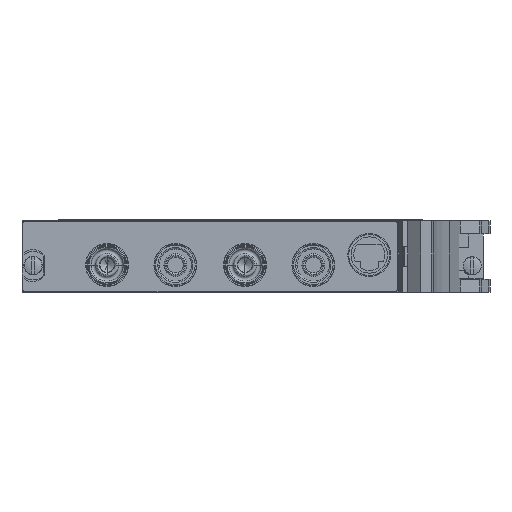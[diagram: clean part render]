
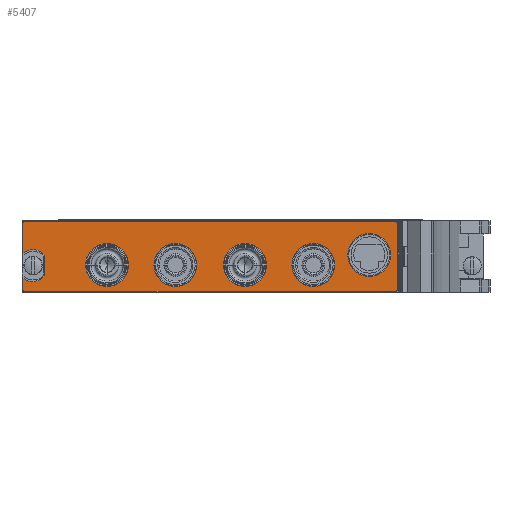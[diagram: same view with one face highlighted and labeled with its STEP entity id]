
A CAD part, left-side view. The second image highlights one B-rep face of the part: STEP entity #5407.
In plain terms, the highlighted planar face has unit normal (-1, 0, 0).
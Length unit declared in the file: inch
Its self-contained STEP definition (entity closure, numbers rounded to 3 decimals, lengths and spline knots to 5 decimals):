
#770=CARTESIAN_POINT('',(-0.215,0.53457,0.6653));
#771=DIRECTION('',(-1.,0.,0.));
#772=DIRECTION('',(0.,0.,1.));
#773=AXIS2_PLACEMENT_3D('',#770,#771,#772);
#775=DIRECTION('',(0.,1.,0.));
#776=VECTOR('',#775,4.07);
#777=CARTESIAN_POINT('',(-0.215,-3.53543,0.6853));
#778=LINE('',#777,#776);
#779=CARTESIAN_POINT('',(-0.215,-3.53543,0.6653));
#780=DIRECTION('',(-1.,0.,0.));
#781=DIRECTION('',(0.,-1.,0.));
#782=AXIS2_PLACEMENT_3D('',#779,#780,#781);
#784=DIRECTION('',(0.,0.,1.));
#785=VECTOR('',#784,0.728);
#786=CARTESIAN_POINT('',(-0.215,-3.55543,-0.0627));
#787=LINE('',#786,#785);
#788=CARTESIAN_POINT('',(-0.215,-3.53543,-0.0627));
#789=DIRECTION('',(-1.,0.,0.));
#790=DIRECTION('',(0.,0.,-1.));
#791=AXIS2_PLACEMENT_3D('',#788,#789,#790);
#793=DIRECTION('',(0.,-1.,0.));
#794=VECTOR('',#793,4.07);
#795=CARTESIAN_POINT('',(-0.215,0.53457,-0.0827));
#796=LINE('',#795,#794);
#797=CARTESIAN_POINT('',(-0.215,0.53457,-0.0627));
#798=DIRECTION('',(-1.,0.,0.));
#799=DIRECTION('',(0.,1.,0.));
#800=AXIS2_PLACEMENT_3D('',#797,#798,#799);
#802=DIRECTION('',(0.,0.,-1.));
#803=VECTOR('',#802,0.1263);
#804=CARTESIAN_POINT('',(-0.215,0.55457,0.0636));
#805=LINE('',#804,#803);
#806=CARTESIAN_POINT('',(-0.215,0.44657,0.2013));
#807=DIRECTION('',(1.,0.,0.));
#808=DIRECTION('',(0.,-0.76,-0.65));
#809=AXIS2_PLACEMENT_3D('',#806,#807,#808);
#811=DIRECTION('',(0.,0.,-1.));
#812=VECTOR('',#811,0.22747);
#813=CARTESIAN_POINT('',(-0.215,0.31357,0.31504));
#814=LINE('',#813,#812);
#815=CARTESIAN_POINT('',(-0.215,0.44657,0.2013));
#816=DIRECTION('',(1.,0.,0.));
#817=DIRECTION('',(0.,0.617,0.787));
#818=AXIS2_PLACEMENT_3D('',#815,#816,#817);
#820=DIRECTION('',(0.,0.,-1.));
#821=VECTOR('',#820,0.3263);
#822=CARTESIAN_POINT('',(-0.215,0.55457,0.6653));
#823=LINE('',#822,#821);
#824=CARTESIAN_POINT('',(-0.215,-3.24759,0.318));
#825=DIRECTION('',(1.,0.,0.));
#826=DIRECTION('',(0.,0.,-1.));
#827=AXIS2_PLACEMENT_3D('',#824,#825,#826);
#829=CARTESIAN_POINT('',(-0.215,-3.24759,0.318));
#830=DIRECTION('',(1.,0.,0.));
#831=DIRECTION('',(0.,0.,1.));
#832=AXIS2_PLACEMENT_3D('',#829,#830,#831);
#834=CARTESIAN_POINT('',(-0.215,-0.3695,0.20767));
#835=DIRECTION('',(1.,0.,0.));
#836=DIRECTION('',(0.,0.,-1.));
#837=AXIS2_PLACEMENT_3D('',#834,#835,#836);
#839=CARTESIAN_POINT('',(-0.215,-0.3695,0.20767));
#840=DIRECTION('',(1.,0.,0.));
#841=DIRECTION('',(0.,0.,1.));
#842=AXIS2_PLACEMENT_3D('',#839,#840,#841);
#844=CARTESIAN_POINT('',(-0.215,-1.1195,0.20767));
#845=DIRECTION('',(1.,0.,0.));
#846=DIRECTION('',(0.,0.,-1.));
#847=AXIS2_PLACEMENT_3D('',#844,#845,#846);
#849=CARTESIAN_POINT('',(-0.215,-1.1195,0.20767));
#850=DIRECTION('',(1.,0.,0.));
#851=DIRECTION('',(0.,0.,1.));
#852=AXIS2_PLACEMENT_3D('',#849,#850,#851);
#854=CARTESIAN_POINT('',(-0.215,-1.8835,0.20767));
#855=DIRECTION('',(1.,0.,0.));
#856=DIRECTION('',(0.,0.,-1.));
#857=AXIS2_PLACEMENT_3D('',#854,#855,#856);
#859=CARTESIAN_POINT('',(-0.215,-1.8835,0.20767));
#860=DIRECTION('',(1.,0.,0.));
#861=DIRECTION('',(0.,0.,1.));
#862=AXIS2_PLACEMENT_3D('',#859,#860,#861);
#864=CARTESIAN_POINT('',(-0.215,-2.6335,0.20767));
#865=DIRECTION('',(1.,0.,0.));
#866=DIRECTION('',(0.,0.,-1.));
#867=AXIS2_PLACEMENT_3D('',#864,#865,#866);
#869=CARTESIAN_POINT('',(-0.215,-2.6335,0.20767));
#870=DIRECTION('',(1.,0.,0.));
#871=DIRECTION('',(0.,0.,1.));
#872=AXIS2_PLACEMENT_3D('',#869,#870,#871);
#4057=CARTESIAN_POINT('',(-0.215,0.53457,0.6853));
#4058=CARTESIAN_POINT('',(-0.215,0.55457,0.6653));
#4059=VERTEX_POINT('',#4057);
#4060=VERTEX_POINT('',#4058);
#4061=CARTESIAN_POINT('',(-0.215,0.55457,0.339));
#4062=VERTEX_POINT('',#4061);
#4063=CARTESIAN_POINT('',(-0.215,0.31357,0.31504));
#4064=VERTEX_POINT('',#4063);
#4065=CARTESIAN_POINT('',(-0.215,0.31357,0.08756));
#4066=VERTEX_POINT('',#4065);
#4067=CARTESIAN_POINT('',(-0.215,0.55457,0.0636));
#4068=VERTEX_POINT('',#4067);
#4069=CARTESIAN_POINT('',(-0.215,0.55457,-0.0627));
#4070=VERTEX_POINT('',#4069);
#4071=CARTESIAN_POINT('',(-0.215,0.53457,-0.0827));
#4072=VERTEX_POINT('',#4071);
#4073=CARTESIAN_POINT('',(-0.215,-3.53543,-0.0827));
#4074=VERTEX_POINT('',#4073);
#4075=CARTESIAN_POINT('',(-0.215,-3.55543,-0.0627));
#4076=VERTEX_POINT('',#4075);
#4077=CARTESIAN_POINT('',(-0.215,-3.55543,0.6653));
#4078=VERTEX_POINT('',#4077);
#4079=CARTESIAN_POINT('',(-0.215,-3.53543,0.6853));
#4080=VERTEX_POINT('',#4079);
#4081=CARTESIAN_POINT('',(-0.215,-3.24759,0.083));
#4082=CARTESIAN_POINT('',(-0.215,-3.24759,0.553));
#4083=VERTEX_POINT('',#4081);
#4084=VERTEX_POINT('',#4082);
#4085=CARTESIAN_POINT('',(-0.215,-0.3695,-0.02733));
#4086=CARTESIAN_POINT('',(-0.215,-0.3695,0.44267));
#4087=VERTEX_POINT('',#4085);
#4088=VERTEX_POINT('',#4086);
#4089=CARTESIAN_POINT('',(-0.215,-1.1195,-0.02733));
#4090=CARTESIAN_POINT('',(-0.215,-1.1195,0.44267));
#4091=VERTEX_POINT('',#4089);
#4092=VERTEX_POINT('',#4090);
#4093=CARTESIAN_POINT('',(-0.215,-1.8835,-0.02733));
#4094=CARTESIAN_POINT('',(-0.215,-1.8835,0.44267));
#4095=VERTEX_POINT('',#4093);
#4096=VERTEX_POINT('',#4094);
#4097=CARTESIAN_POINT('',(-0.215,-2.6335,-0.02733));
#4098=CARTESIAN_POINT('',(-0.215,-2.6335,0.44267));
#4099=VERTEX_POINT('',#4097);
#4100=VERTEX_POINT('',#4098);
#5349=CARTESIAN_POINT('',(-0.215,0.44657,0.2013));
#5350=DIRECTION('',(-1.,0.,0.));
#5351=DIRECTION('',(0.,0.,1.));
#5352=AXIS2_PLACEMENT_3D('',#5349,#5350,#5351);
#5353=PLANE('',#5352);
#5354=ORIENTED_EDGE('',*,*,#5329,.F.);
#5355=ORIENTED_EDGE('',*,*,#5343,.F.);
#5356=ORIENTED_EDGE('',*,*,#5261,.F.);
#5358=ORIENTED_EDGE('',*,*,#5357,.F.);
#5360=ORIENTED_EDGE('',*,*,#5359,.F.);
#5362=ORIENTED_EDGE('',*,*,#5361,.F.);
#5364=ORIENTED_EDGE('',*,*,#5363,.F.);
#5366=ORIENTED_EDGE('',*,*,#5365,.F.);
#5368=ORIENTED_EDGE('',*,*,#5367,.F.);
#5370=ORIENTED_EDGE('',*,*,#5369,.F.);
#5372=ORIENTED_EDGE('',*,*,#5371,.F.);
#5374=ORIENTED_EDGE('',*,*,#5373,.F.);
#5375=EDGE_LOOP('',(#5354,#5355,#5356,#5358,#5360,#5362,#5364,#5366,#5368,#5370,
#5372,#5374));
#5376=FACE_OUTER_BOUND('',#5375,.F.);
#5378=ORIENTED_EDGE('',*,*,#5377,.F.);
#5380=ORIENTED_EDGE('',*,*,#5379,.F.);
#5381=EDGE_LOOP('',(#5378,#5380));
#5382=FACE_BOUND('',#5381,.F.);
#5384=ORIENTED_EDGE('',*,*,#5383,.F.);
#5386=ORIENTED_EDGE('',*,*,#5385,.F.);
#5387=EDGE_LOOP('',(#5384,#5386));
#5388=FACE_BOUND('',#5387,.F.);
#5390=ORIENTED_EDGE('',*,*,#5389,.F.);
#5392=ORIENTED_EDGE('',*,*,#5391,.F.);
#5393=EDGE_LOOP('',(#5390,#5392));
#5394=FACE_BOUND('',#5393,.F.);
#5396=ORIENTED_EDGE('',*,*,#5395,.F.);
#5398=ORIENTED_EDGE('',*,*,#5397,.F.);
#5399=EDGE_LOOP('',(#5396,#5398));
#5400=FACE_BOUND('',#5399,.F.);
#5402=ORIENTED_EDGE('',*,*,#5401,.F.);
#5404=ORIENTED_EDGE('',*,*,#5403,.F.);
#5405=EDGE_LOOP('',(#5402,#5404));
#5406=FACE_BOUND('',#5405,.F.);
#5407=ADVANCED_FACE('',(#5376,#5382,#5388,#5394,#5400,#5406),#5353,.T.);
#774=CIRCLE('',#773,0.02);
#783=CIRCLE('',#782,0.02);
#792=CIRCLE('',#791,0.02);
#801=CIRCLE('',#800,0.02);
#810=CIRCLE('',#809,0.175);
#819=CIRCLE('',#818,0.175);
#828=CIRCLE('',#827,0.235);
#833=CIRCLE('',#832,0.235);
#838=CIRCLE('',#837,0.235);
#843=CIRCLE('',#842,0.235);
#848=CIRCLE('',#847,0.235);
#853=CIRCLE('',#852,0.235);
#858=CIRCLE('',#857,0.235);
#863=CIRCLE('',#862,0.235);
#868=CIRCLE('',#867,0.235);
#873=CIRCLE('',#872,0.235);
#5261=EDGE_CURVE('',#4078,#4080,#783,.T.);
#5329=EDGE_CURVE('',#4059,#4060,#774,.T.);
#5343=EDGE_CURVE('',#4080,#4059,#778,.T.);
#5357=EDGE_CURVE('',#4076,#4078,#787,.T.);
#5359=EDGE_CURVE('',#4074,#4076,#792,.T.);
#5361=EDGE_CURVE('',#4072,#4074,#796,.T.);
#5363=EDGE_CURVE('',#4070,#4072,#801,.T.);
#5365=EDGE_CURVE('',#4068,#4070,#805,.T.);
#5367=EDGE_CURVE('',#4066,#4068,#810,.T.);
#5369=EDGE_CURVE('',#4064,#4066,#814,.T.);
#5371=EDGE_CURVE('',#4062,#4064,#819,.T.);
#5373=EDGE_CURVE('',#4060,#4062,#823,.T.);
#5377=EDGE_CURVE('',#4083,#4084,#828,.T.);
#5379=EDGE_CURVE('',#4084,#4083,#833,.T.);
#5383=EDGE_CURVE('',#4087,#4088,#838,.T.);
#5385=EDGE_CURVE('',#4088,#4087,#843,.T.);
#5389=EDGE_CURVE('',#4091,#4092,#848,.T.);
#5391=EDGE_CURVE('',#4092,#4091,#853,.T.);
#5395=EDGE_CURVE('',#4095,#4096,#858,.T.);
#5397=EDGE_CURVE('',#4096,#4095,#863,.T.);
#5401=EDGE_CURVE('',#4099,#4100,#868,.T.);
#5403=EDGE_CURVE('',#4100,#4099,#873,.T.);
